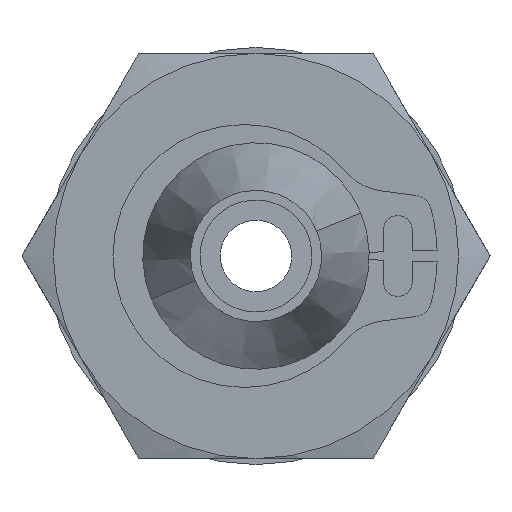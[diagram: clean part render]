
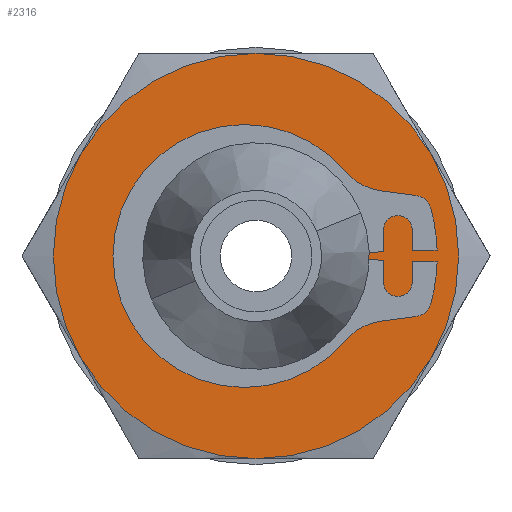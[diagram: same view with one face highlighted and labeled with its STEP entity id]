
A CAD part, left-side view. The second image highlights one B-rep face of the part: STEP entity #2316.
In plain terms, the highlighted planar face has unit normal (-1, 0, 0).
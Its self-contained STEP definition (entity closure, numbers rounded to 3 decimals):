
#86 = DIRECTION ( 'NONE',  ( 0., 0., -1. ) ) ;
#91 = VERTEX_POINT ( 'NONE', #796 ) ;
#110 = CARTESIAN_POINT ( 'NONE',  ( 0., -7.361, 4.25 ) ) ;
#167 = CIRCLE ( 'NONE', #219, 8.5 ) ;
#191 = FACE_BOUND ( 'NONE', #1517, .T. ) ;
#219 = AXIS2_PLACEMENT_3D ( 'NONE', #1469, #2743, #2567 ) ;
#229 = CIRCLE ( 'NONE', #2842, 4.7 ) ;
#270 = DIRECTION ( 'NONE',  ( -1., 0., 0. ) ) ;
#334 = DIRECTION ( 'NONE',  ( 0., 0., 1. ) ) ;
#335 = VERTEX_POINT ( 'NONE', #2144 ) ;
#348 = CIRCLE ( 'NONE', #1423, 8.5 ) ;
#361 = AXIS2_PLACEMENT_3D ( 'NONE', #3291, #270, #2795 ) ;
#364 = CIRCLE ( 'NONE', #1277, 8.5 ) ;
#509 = VERTEX_POINT ( 'NONE', #2284 ) ;
#548 = EDGE_CURVE ( 'NONE', #335, #2183, #348, .T. ) ;
#594 = ORIENTED_EDGE ( 'NONE', *, *, #548, .F. ) ;
#658 = CARTESIAN_POINT ( 'NONE',  ( 0., 0., -4.7 ) ) ;
#662 = DIRECTION ( 'NONE',  ( 0., 0., -1. ) ) ;
#736 = VERTEX_POINT ( 'NONE', #1976 ) ;
#776 = DIRECTION ( 'NONE',  ( 0., 0., 1. ) ) ;
#796 = CARTESIAN_POINT ( 'NONE',  ( 0., 7.361, 4.25 ) ) ;
#831 = EDGE_CURVE ( 'NONE', #335, #91, #2150, .T. ) ;
#886 = CIRCLE ( 'NONE', #2249, 4.7 ) ;
#914 = CARTESIAN_POINT ( 'NONE',  ( 0., 0., 0. ) ) ;
#981 = AXIS2_PLACEMENT_3D ( 'NONE', #1710, #1526, #1259 ) ;
#1008 = PLANE ( 'NONE',  #3176 ) ;
#1142 = ORIENTED_EDGE ( 'NONE', *, *, #3266, .F. ) ;
#1259 = DIRECTION ( 'NONE',  ( 0., 0., -1. ) ) ;
#1268 = ORIENTED_EDGE ( 'NONE', *, *, #2979, .F. ) ;
#1277 = AXIS2_PLACEMENT_3D ( 'NONE', #1741, #3287, #1489 ) ;
#1303 = CARTESIAN_POINT ( 'NONE',  ( 0., 0., 0. ) ) ;
#1356 = EDGE_CURVE ( 'NONE', #1484, #91, #364, .T. ) ;
#1422 = VERTEX_POINT ( 'NONE', #658 ) ;
#1423 = AXIS2_PLACEMENT_3D ( 'NONE', #914, #2474, #86 ) ;
#1469 = CARTESIAN_POINT ( 'NONE',  ( 0., 0., 0. ) ) ;
#1484 = VERTEX_POINT ( 'NONE', #2617 ) ;
#1489 = DIRECTION ( 'NONE',  ( 0., 0., -1. ) ) ;
#1517 = EDGE_LOOP ( 'NONE', ( #1971, #2171 ) ) ;
#1526 = DIRECTION ( 'NONE',  ( 1., 0., 0. ) ) ;
#1547 = DIRECTION ( 'NONE',  ( 1., 0., 0. ) ) ;
#1594 = ORIENTED_EDGE ( 'NONE', *, *, #2819, .F. ) ;
#1612 = CIRCLE ( 'NONE', #2800, 8.5 ) ;
#1710 = CARTESIAN_POINT ( 'NONE',  ( 0., 0., 0. ) ) ;
#1741 = CARTESIAN_POINT ( 'NONE',  ( 0., 0., 0. ) ) ;
#1749 = EDGE_CURVE ( 'NONE', #736, #1422, #229, .T. ) ;
#1770 = CARTESIAN_POINT ( 'NONE',  ( 0., 0., -8.5 ) ) ;
#1971 = ORIENTED_EDGE ( 'NONE', *, *, #1749, .F. ) ;
#1976 = CARTESIAN_POINT ( 'NONE',  ( 0., 0., 4.7 ) ) ;
#2121 = CARTESIAN_POINT ( 'NONE',  ( 0., 10., 0. ) ) ;
#2125 = ORIENTED_EDGE ( 'NONE', *, *, #831, .T. ) ;
#2144 = CARTESIAN_POINT ( 'NONE',  ( 0., 0., 8.5 ) ) ;
#2150 = CIRCLE ( 'NONE', #361, 8.5 ) ;
#2171 = ORIENTED_EDGE ( 'NONE', *, *, #3209, .F. ) ;
#2177 = CARTESIAN_POINT ( 'NONE',  ( 0., 0., 0. ) ) ;
#2183 = VERTEX_POINT ( 'NONE', #110 ) ;
#2249 = AXIS2_PLACEMENT_3D ( 'NONE', #2177, #2304, #334 ) ;
#2284 = CARTESIAN_POINT ( 'NONE',  ( 0., -7.361, -4.25 ) ) ;
#2304 = DIRECTION ( 'NONE',  ( -1., 0., 0. ) ) ;
#2316 = ADVANCED_FACE ( 'NONE', ( #191, #2343 ), #1008, .F. ) ;
#2342 = VERTEX_POINT ( 'NONE', #1770 ) ;
#2343 = FACE_OUTER_BOUND ( 'NONE', #3141, .T. ) ;
#2346 = DIRECTION ( 'NONE',  ( -1., 0., 0. ) ) ;
#2431 = CIRCLE ( 'NONE', #981, 8.5 ) ;
#2474 = DIRECTION ( 'NONE',  ( 1., 0., 0. ) ) ;
#2567 = DIRECTION ( 'NONE',  ( 0., 0., -1. ) ) ;
#2617 = CARTESIAN_POINT ( 'NONE',  ( 0., 7.361, -4.25 ) ) ;
#2658 = DIRECTION ( 'NONE',  ( 1., 0., 0. ) ) ;
#2702 = DIRECTION ( 'NONE',  ( 0., 0., -1. ) ) ;
#2743 = DIRECTION ( 'NONE',  ( 1., 0., 0. ) ) ;
#2795 = DIRECTION ( 'NONE',  ( 0., 0., 1. ) ) ;
#2800 = AXIS2_PLACEMENT_3D ( 'NONE', #2972, #2658, #2702 ) ;
#2819 = EDGE_CURVE ( 'NONE', #2183, #509, #167, .T. ) ;
#2842 = AXIS2_PLACEMENT_3D ( 'NONE', #1303, #2346, #776 ) ;
#2972 = CARTESIAN_POINT ( 'NONE',  ( 0., 0., 0. ) ) ;
#2979 = EDGE_CURVE ( 'NONE', #2342, #1484, #2431, .T. ) ;
#3141 = EDGE_LOOP ( 'NONE', ( #1268, #1142, #1594, #594, #2125, #3267 ) ) ;
#3176 = AXIS2_PLACEMENT_3D ( 'NONE', #2121, #1547, #662 ) ;
#3209 = EDGE_CURVE ( 'NONE', #1422, #736, #886, .T. ) ;
#3266 = EDGE_CURVE ( 'NONE', #509, #2342, #1612, .T. ) ;
#3267 = ORIENTED_EDGE ( 'NONE', *, *, #1356, .F. ) ;
#3287 = DIRECTION ( 'NONE',  ( 1., 0., 0. ) ) ;
#3291 = CARTESIAN_POINT ( 'NONE',  ( 0., 0., 0. ) ) ;
